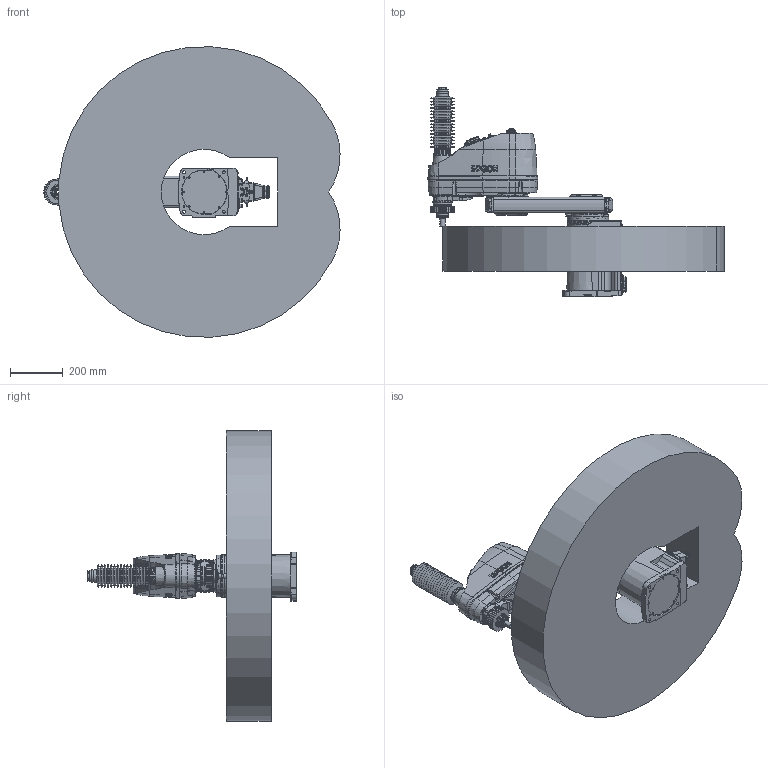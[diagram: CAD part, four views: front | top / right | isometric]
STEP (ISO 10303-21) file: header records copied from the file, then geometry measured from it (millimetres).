
FILE_DESCRIPTION( ( 'STEP AP214' ), '1' );
FILE_NAME( 'C:/Users/9607552/Desktop/GX8-B552P_straight.stp', '2023-07-07T02:34:08', ( '' ), ( '' ), ' ', 'PARTsolutions', ' ' );
FILE_SCHEMA( ( 'AUTOMOTIVE_DESIGN { 1 0 10303 214 1 1 1 1 }' ) );
Length unit declared in the file: millimetre
Products named in the file (11): GX8-B552PS-W; _B452P_BASE; _B552C; _B552C_1; _B552C_2; _B452P_J2; _B452CZA; _1-B-long; _1-B-short; _Straight-B; _GX8-16-B_WS
Assembly tree (12 placements, depth 2):
  GX8-B552PS-W
    _B452P_BASE
    _B552C
    _B552C_1  x2
    _B552C_2  x2
    _B452P_J2
    _B452CZA
    _1-B-long
    _1-B-short
    _Straight-B
    _GX8-16-B_WS
Bounding box: 1119.76 x 791.5 x 1098.33 mm (x, y, z)
Volume: 162970685.7 mm3; surface area: 3926133.3 mm2
Topology: 12 solids, 17 shells, 3398 faces, 8145 edges, 5272 vertices
Faces by surface type: plane 1660, cylinder 1110, cone 429, torus 157, bspline 37, sphere 5
Full cylindrical faces by diameter (mm): 1 x24, 1.18 x55, 1.2 x24, 2.261 x4, 2.459 x4, 3 x32, 3.242 x18, 3.3 x4, 3.9 x4, 4.2 x8, 4.5 x12, 4.8 x4, 5.34 x4, 5.5 x25, 6 x5, 6.2 x4, 6.4 x1, 6.647 x4, 6.8 x2, 7 x48, 7.4 x1, 8 x5, 8.5 x4, 9 x24, 10 x18, 11 x4, 11.2 x5, 12 x5, 12.2 x1, 12.25 x1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
Entity records: 120315 total; most frequent: CARTESIAN_POINT 22316, DIRECTION 15036, ORIENTED_EDGE 13466, EDGE_CURVE 6733, AXIS2_PLACEMENT_3D 5894, VERTEX_POINT 4881, EDGE_LOOP 4628, FACE_OUTER_BOUND 3833
